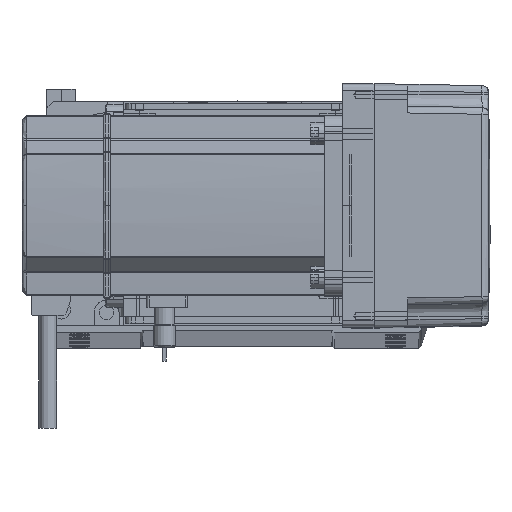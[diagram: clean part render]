
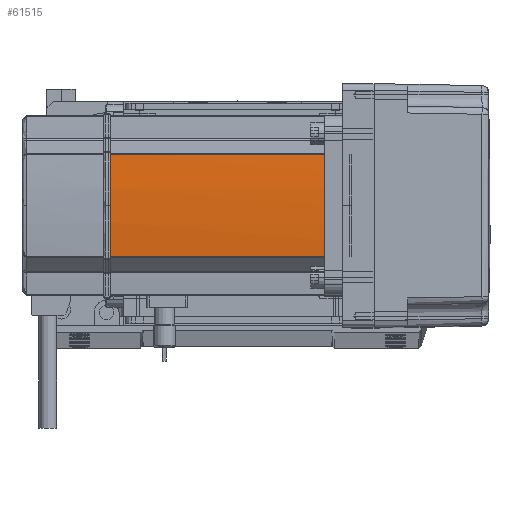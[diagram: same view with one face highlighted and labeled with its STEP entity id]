
A CAD part, top view. The second image highlights one B-rep face of the part: STEP entity #61515.
In plain terms, the highlighted cylindrical face has radius 270 mm (diameter 540 mm), a partial arc.
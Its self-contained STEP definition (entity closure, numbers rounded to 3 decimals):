
#2257 = VERTEX_POINT ( 'NONE', #25026 ) ;
#4077 = ORIENTED_EDGE ( 'NONE', *, *, #64220, .T. ) ;
#4441 = CARTESIAN_POINT ( 'NONE',  ( 230., 0., 134. ) ) ;
#5092 = AXIS2_PLACEMENT_3D ( 'NONE', #63490, #63026, #30922 ) ;
#5310 = EDGE_CURVE ( 'NONE', #63724, #36595, #39846, .T. ) ;
#6028 = DIRECTION ( 'NONE',  ( 1., 0., 0. ) ) ;
#7774 = EDGE_CURVE ( 'NONE', #41051, #39682, #68606, .T. ) ;
#11062 = EDGE_CURVE ( 'NONE', #2257, #36595, #52030, .T. ) ;
#14992 = CARTESIAN_POINT ( 'NONE',  ( -39.042, 22.724, 0. ) ) ;
#16905 = ORIENTED_EDGE ( 'NONE', *, *, #27726, .T. ) ;
#17958 = LINE ( 'NONE', #64158, #23870 ) ;
#18482 = AXIS2_PLACEMENT_3D ( 'NONE', #54668, #59839, #6028 ) ;
#23274 = DIRECTION ( 'NONE',  ( 0., 0., -1. ) ) ;
#23870 = VECTOR ( 'NONE', #53543, 1000. ) ;
#25026 = CARTESIAN_POINT ( 'NONE',  ( -39.042, -22.724, 39. ) ) ;
#27726 = EDGE_CURVE ( 'NONE', #2257, #41051, #17958, .T. ) ;
#27894 = CARTESIAN_POINT ( 'NONE',  ( -40., 0., 134. ) ) ;
#29235 = CARTESIAN_POINT ( 'NONE',  ( -39.042, 22.724, 39. ) ) ;
#30922 = DIRECTION ( 'NONE',  ( 1., 0., 0. ) ) ;
#31583 = DIRECTION ( 'NONE',  ( 1., 0., 0. ) ) ;
#34009 = VECTOR ( 'NONE', #52589, 1000. ) ;
#35070 = AXIS2_PLACEMENT_3D ( 'NONE', #4441, #46775, #31583 ) ;
#35446 = ORIENTED_EDGE ( 'NONE', *, *, #5310, .T. ) ;
#36595 = VERTEX_POINT ( 'NONE', #29235 ) ;
#38171 = FACE_OUTER_BOUND ( 'NONE', #42668, .T. ) ;
#39682 = VERTEX_POINT ( 'NONE', #27894 ) ;
#39846 = LINE ( 'NONE', #14992, #34009 ) ;
#41051 = VERTEX_POINT ( 'NONE', #69510 ) ;
#42668 = EDGE_LOOP ( 'NONE', ( #57691, #4077, #35446, #46640, #16905 ) ) ;
#44596 = CIRCLE ( 'NONE', #68763, 270. ) ;
#46640 = ORIENTED_EDGE ( 'NONE', *, *, #11062, .F. ) ;
#46775 = DIRECTION ( 'NONE',  ( 0., 0., -1. ) ) ;
#49790 = DIRECTION ( 'NONE',  ( 1., 0., 0. ) ) ;
#52030 = CIRCLE ( 'NONE', #18482, 270. ) ;
#52589 = DIRECTION ( 'NONE',  ( 0., 0., -1. ) ) ;
#53543 = DIRECTION ( 'NONE',  ( 0., 0., 1. ) ) ;
#54668 = CARTESIAN_POINT ( 'NONE',  ( 230., 0., 39. ) ) ;
#56944 = CARTESIAN_POINT ( 'NONE',  ( -39.042, 22.724, 134. ) ) ;
#57691 = ORIENTED_EDGE ( 'NONE', *, *, #7774, .T. ) ;
#59839 = DIRECTION ( 'NONE',  ( 0., 0., -1. ) ) ;
#61515 = ADVANCED_FACE ( 'NONE', ( #38171 ), #63316, .T. ) ;
#63026 = DIRECTION ( 'NONE',  ( 0., 0., 1. ) ) ;
#63316 = CYLINDRICAL_SURFACE ( 'NONE', #5092, 270. ) ;
#63490 = CARTESIAN_POINT ( 'NONE',  ( 230., 0., 0. ) ) ;
#63724 = VERTEX_POINT ( 'NONE', #56944 ) ;
#64158 = CARTESIAN_POINT ( 'NONE',  ( -39.042, -22.724, 0. ) ) ;
#64220 = EDGE_CURVE ( 'NONE', #39682, #63724, #44596, .T. ) ;
#66059 = CARTESIAN_POINT ( 'NONE',  ( 230., 0., 134. ) ) ;
#68606 = CIRCLE ( 'NONE', #35070, 270. ) ;
#68763 = AXIS2_PLACEMENT_3D ( 'NONE', #66059, #23274, #49790 ) ;
#69510 = CARTESIAN_POINT ( 'NONE',  ( -39.042, -22.724, 134. ) ) ;
